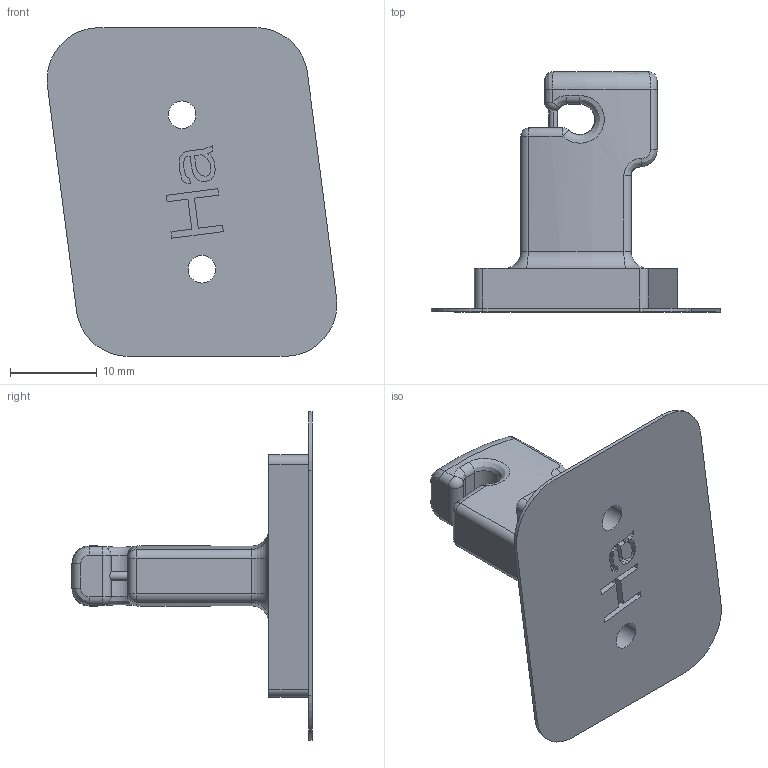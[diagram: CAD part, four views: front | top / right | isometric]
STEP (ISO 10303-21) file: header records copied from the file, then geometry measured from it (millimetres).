
FILE_DESCRIPTION((''),'2;1');
FILE_NAME('0000200906','2024-01-10T08:41:13',('Wyndorps'),(''),'CREO PARAMETRIC BY PTC INC, 2022484','CREO PARAMETRIC BY PTC INC, 2022484','');
FILE_SCHEMA(('CONFIG_CONTROL_DESIGN'));
Length unit declared in the file: millimetre
Products named in the file (1): 0000200906
Bounding box: 33.5 x 27.75 x 38 mm (x, y, z)
Volume: 4759.5 mm3; surface area: 3686 mm2
Topology: 1 solids, 1 shells, 154 faces, 393 edges, 246 vertices
Faces by surface type: plane 85, cylinder 35, bspline 12, torus 12, sphere 6, cone 4
Entity records: 5872 total; most frequent: CARTESIAN_POINT 2124, ORIENTED_EDGE 786, DIRECTION 749, EDGE_CURVE 393, VECTOR 269, LINE 269, VERTEX_POINT 246, AXIS2_PLACEMENT_3D 240
